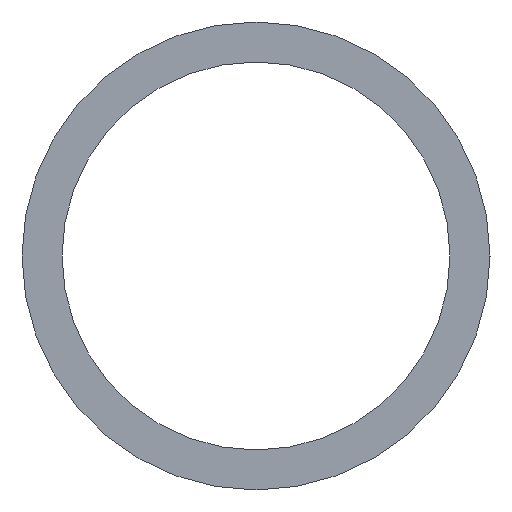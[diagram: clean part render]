
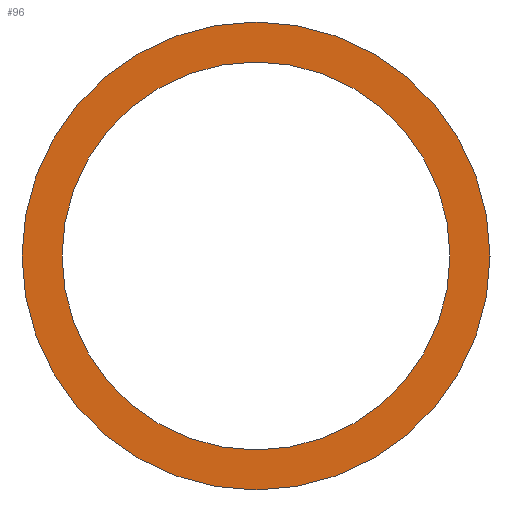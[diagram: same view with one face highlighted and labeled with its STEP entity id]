
A CAD part, left-side view. The second image highlights one B-rep face of the part: STEP entity #96.
In plain terms, the highlighted planar face has unit normal (-1, 0, 0).
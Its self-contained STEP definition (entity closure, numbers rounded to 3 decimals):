
#1 = ORIENTED_EDGE ( 'NONE', *, *, #76, .T. ) ;
#3 = CARTESIAN_POINT ( 'NONE',  ( 5115., 3763.85, 5775.85 ) ) ;
#4 = FACE_BOUND ( 'NONE', #109, .T. ) ;
#23 = DIRECTION ( 'NONE',  ( -1., 0., 0. ) ) ;
#24 = AXIS2_PLACEMENT_3D ( 'NONE', #178, #60, #195 ) ;
#27 = VERTEX_POINT ( 'NONE', #186 ) ;
#31 = DIRECTION ( 'NONE',  ( -1., 0., 0. ) ) ;
#36 = DIRECTION ( 'NONE',  ( -1., 0., 0. ) ) ;
#37 = PLANE ( 'NONE',  #145 ) ;
#48 = CIRCLE ( 'NONE', #94, 11.15 ) ;
#49 = CARTESIAN_POINT ( 'NONE',  ( 5115., 3788.45, 5775.85 ) ) ;
#54 = FACE_OUTER_BOUND ( 'NONE', #127, .T. ) ;
#56 = CARTESIAN_POINT ( 'NONE',  ( 5115., 3775., 5775.85 ) ) ;
#59 = CARTESIAN_POINT ( 'NONE',  ( 5115., 3775., 5775.85 ) ) ;
#60 = DIRECTION ( 'NONE',  ( -1., 0., 0. ) ) ;
#73 = VERTEX_POINT ( 'NONE', #49 ) ;
#76 = EDGE_CURVE ( 'NONE', #27, #73, #201, .T. ) ;
#79 = ORIENTED_EDGE ( 'NONE', *, *, #203, .T. ) ;
#87 = ORIENTED_EDGE ( 'NONE', *, *, #99, .F. ) ;
#92 = DIRECTION ( 'NONE',  ( 0., -1., 0. ) ) ;
#94 = AXIS2_PLACEMENT_3D ( 'NONE', #56, #23, #92 ) ;
#96 = ADVANCED_FACE ( 'NONE', ( #54, #4 ), #37, .T. ) ;
#99 = EDGE_CURVE ( 'NONE', #167, #171, #164, .T. ) ;
#103 = AXIS2_PLACEMENT_3D ( 'NONE', #59, #36, #130 ) ;
#107 = DIRECTION ( 'NONE',  ( 0., -1., 0. ) ) ;
#109 = EDGE_LOOP ( 'NONE', ( #87, #111 ) ) ;
#111 = ORIENTED_EDGE ( 'NONE', *, *, #147, .F. ) ;
#119 = CIRCLE ( 'NONE', #24, 13.45 ) ;
#127 = EDGE_LOOP ( 'NONE', ( #79, #1 ) ) ;
#129 = DIRECTION ( 'NONE',  ( -1., 0., 0. ) ) ;
#130 = DIRECTION ( 'NONE',  ( 0., -1., 0. ) ) ;
#145 = AXIS2_PLACEMENT_3D ( 'NONE', #173, #129, #146 ) ;
#146 = DIRECTION ( 'NONE',  ( 0., -1., 0. ) ) ;
#147 = EDGE_CURVE ( 'NONE', #171, #167, #48, .T. ) ;
#161 = CARTESIAN_POINT ( 'NONE',  ( 5115., 3786.15, 5775.85 ) ) ;
#164 = CIRCLE ( 'NONE', #103, 11.15 ) ;
#167 = VERTEX_POINT ( 'NONE', #161 ) ;
#171 = VERTEX_POINT ( 'NONE', #3 ) ;
#173 = CARTESIAN_POINT ( 'NONE',  ( 5115., 3775., 5775.85 ) ) ;
#177 = AXIS2_PLACEMENT_3D ( 'NONE', #185, #31, #107 ) ;
#178 = CARTESIAN_POINT ( 'NONE',  ( 5115., 3775., 5775.85 ) ) ;
#185 = CARTESIAN_POINT ( 'NONE',  ( 5115., 3775., 5775.85 ) ) ;
#186 = CARTESIAN_POINT ( 'NONE',  ( 5115., 3761.55, 5775.85 ) ) ;
#195 = DIRECTION ( 'NONE',  ( 0., -1., 0. ) ) ;
#201 = CIRCLE ( 'NONE', #177, 13.45 ) ;
#203 = EDGE_CURVE ( 'NONE', #73, #27, #119, .T. ) ;
